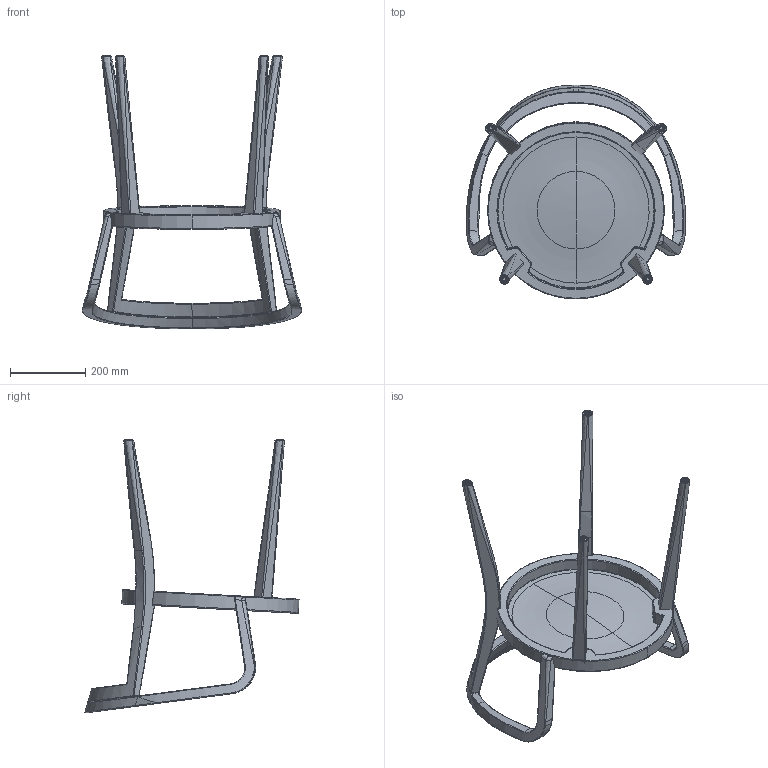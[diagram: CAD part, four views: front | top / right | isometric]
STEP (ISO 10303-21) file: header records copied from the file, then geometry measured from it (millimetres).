
FILE_DESCRIPTION (( 'STEP AP214' ), '1' );
FILE_NAME ('AU2510383_REKO_Stuhl_mit_Armlehne.STEP', '2025-03-27T15:14:17', ( '' ), ( '' ), 'SwSTEP 2.0', 'SolidWorks 2024', '' );
FILE_SCHEMA (( 'AUTOMOTIVE_DESIGN' ));
Length unit declared in the file: millimetre
Products named in the file (1): AU2510383_REKO_Stuhl_mit_Armlehne
Bounding box: 582.02 x 567.93 x 726.58 mm (x, y, z)
Volume: 5730718.4 mm3; surface area: 932232.1 mm2
Topology: 5 solids, 5 shells, 309 faces, 751 edges, 462 vertices
Faces by surface type: bspline 119, plane 80, cylinder 60, torus 44, sphere 6
Entity records: 20484 total; most frequent: CARTESIAN_POINT 14352, ORIENTED_EDGE 1498, DIRECTION 939, EDGE_CURVE 749, VERTEX_POINT 462, AXIS2_PLACEMENT_3D 388, B_SPLINE_CURVE_WITH_KNOTS 347, EDGE_LOOP 321
